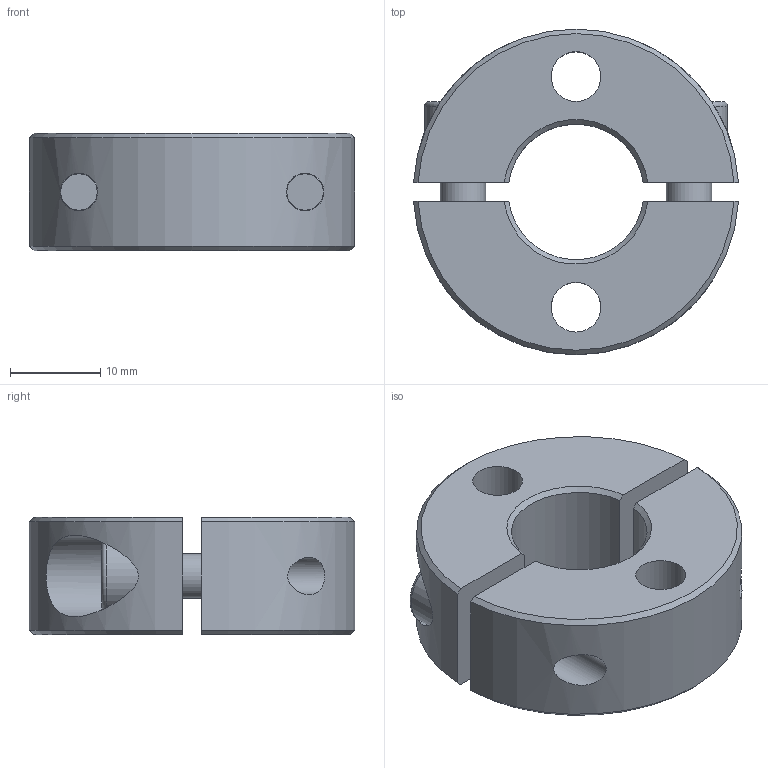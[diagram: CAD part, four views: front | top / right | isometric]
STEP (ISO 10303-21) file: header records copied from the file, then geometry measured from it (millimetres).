
FILE_DESCRIPTION( ( 'STEP AP203' ), '1' );
FILE_NAME( 'C:/Temp/Ganter_Step_05_03_2020/data/3_2/gn7072_2/Split Stainless Steel-Set collar GN 7072.2-36-B15-NI-A.stp', '2020-03-13T05:40:49', ( 'License CC BY-ND 4.0' ), ( 'CADENAS' ), ' ', 'PARTsolutions', ' ' );
FILE_SCHEMA( ( 'CONFIG_CONTROL_DESIGN' ) );
Length unit declared in the file: millimetre
Products named in the file (1): _Split Stainless Steel-Set collar GN 7072.2-36-B15-NI-A
Bounding box: 35.94 x 36 x 13 mm (x, y, z)
Volume: 9126.2 mm3; surface area: 5439.4 mm2
Topology: 1 solids, 1 shells, 58 faces, 136 edges, 92 vertices
Faces by surface type: plane 30, cylinder 16, cone 10, torus 2
Full cylindrical faces by diameter (mm): 4.134 x2, 5 x2, 5.4 x2, 5.5 x2, 8.5 x2, 9 x2
Entity records: 1833 total; most frequent: CARTESIAN_POINT 552, DIRECTION 250, ORIENTED_EDGE 224, EDGE_CURVE 112, AXIS2_PLACEMENT_3D 99, EDGE_LOOP 92, VERTEX_POINT 84, FACE_OUTER_BOUND 72
